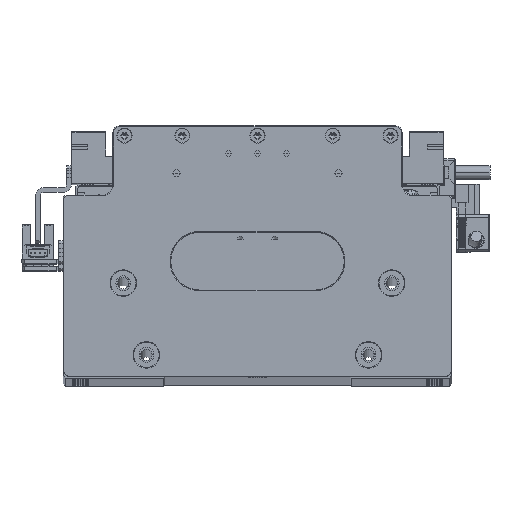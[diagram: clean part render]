
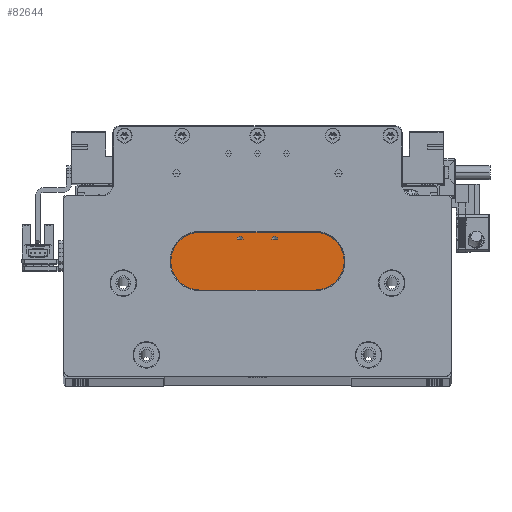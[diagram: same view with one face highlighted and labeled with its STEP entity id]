
A CAD part, top view. The second image highlights one B-rep face of the part: STEP entity #82644.
In plain terms, the highlighted planar face has unit normal (0, 0, 1).
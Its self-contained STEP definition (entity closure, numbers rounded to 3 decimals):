
#1889 = EDGE_CURVE ( 'NONE', #59545, #63715, #81608, .T. ) ;
#2048 = LINE ( 'NONE', #131990, #53679 ) ;
#3581 = DIRECTION ( 'NONE',  ( 0., 0., 1. ) ) ;
#6038 = VERTEX_POINT ( 'NONE', #142651 ) ;
#6567 = DIRECTION ( 'NONE',  ( -1., 0., 0. ) ) ;
#9243 = CARTESIAN_POINT ( 'NONE',  ( 7.5, 61.2, 90. ) ) ;
#12257 = ORIENTED_EDGE ( 'NONE', *, *, #95910, .T. ) ;
#13443 = ORIENTED_EDGE ( 'NONE', *, *, #102136, .F. ) ;
#14115 = LINE ( 'NONE', #98883, #65743 ) ;
#17807 = ORIENTED_EDGE ( 'NONE', *, *, #141955, .F. ) ;
#18757 = DIRECTION ( 'NONE',  ( -1., 0., 0. ) ) ;
#19365 = CARTESIAN_POINT ( 'NONE',  ( -45., 69.2, 90. ) ) ;
#20006 = VECTOR ( 'NONE', #120868, 1000. ) ;
#20329 = DIRECTION ( 'NONE',  ( 1., 0., 0. ) ) ;
#21655 = EDGE_LOOP ( 'NONE', ( #17807, #62153, #86708, #94880, #98536, #105288, #42012, #13443 ) ) ;
#22623 = CARTESIAN_POINT ( 'NONE',  ( 45., 61.2, 90. ) ) ;
#25518 = ORIENTED_EDGE ( 'NONE', *, *, #96567, .T. ) ;
#27035 = CARTESIAN_POINT ( 'NONE',  ( -45., 61.2, 90. ) ) ;
#28509 = EDGE_CURVE ( 'NONE', #135825, #55122, #140601, .T. ) ;
#29423 = VERTEX_POINT ( 'NONE', #60200 ) ;
#29841 = CARTESIAN_POINT ( 'NONE',  ( 45., 29., 90. ) ) ;
#30135 = EDGE_CURVE ( 'NONE', #55122, #35436, #40261, .T. ) ;
#31547 = LINE ( 'NONE', #19365, #86662 ) ;
#31879 = EDGE_CURVE ( 'NONE', #125731, #6038, #120891, .T. ) ;
#32148 = CARTESIAN_POINT ( 'NONE',  ( -7.5, 61.2, 90. ) ) ;
#35436 = VERTEX_POINT ( 'NONE', #98907 ) ;
#36418 = VERTEX_POINT ( 'NONE', #104151 ) ;
#40261 = LINE ( 'NONE', #50395, #69574 ) ;
#42012 = ORIENTED_EDGE ( 'NONE', *, *, #71015, .T. ) ;
#42790 = EDGE_CURVE ( 'NONE', #57495, #29423, #14115, .T. ) ;
#43210 = DIRECTION ( 'NONE',  ( 1., 0., 0. ) ) ;
#45534 = CARTESIAN_POINT ( 'NONE',  ( -33.5, 61.2, 90. ) ) ;
#47378 = CARTESIAN_POINT ( 'NONE',  ( 0., 69.2, 90. ) ) ;
#50395 = CARTESIAN_POINT ( 'NONE',  ( 0., 69., 90. ) ) ;
#51388 = ORIENTED_EDGE ( 'NONE', *, *, #42790, .T. ) ;
#51721 = CARTESIAN_POINT ( 'NONE',  ( -45., 61.2, 90. ) ) ;
#51748 = ORIENTED_EDGE ( 'NONE', *, *, #31879, .T. ) ;
#52273 = VECTOR ( 'NONE', #70106, 1000. ) ;
#53679 = VECTOR ( 'NONE', #77129, 1000. ) ;
#55122 = VERTEX_POINT ( 'NONE', #106177 ) ;
#56944 = VERTEX_POINT ( 'NONE', #29841 ) ;
#57495 = VERTEX_POINT ( 'NONE', #115447 ) ;
#57630 = CIRCLE ( 'NONE', #138482, 1.25 ) ;
#58153 = CARTESIAN_POINT ( 'NONE',  ( 45., 61.2, 90. ) ) ;
#58387 = CARTESIAN_POINT ( 'NONE',  ( -45., 29., 90. ) ) ;
#58448 = VECTOR ( 'NONE', #76726, 1000. ) ;
#59545 = VERTEX_POINT ( 'NONE', #45534 ) ;
#60200 = CARTESIAN_POINT ( 'NONE',  ( -8.75, 61.2, 90. ) ) ;
#61877 = LINE ( 'NONE', #142653, #58448 ) ;
#62153 = ORIENTED_EDGE ( 'NONE', *, *, #132322, .T. ) ;
#63715 = VERTEX_POINT ( 'NONE', #51721 ) ;
#64198 = VECTOR ( 'NONE', #93438, 1000. ) ;
#65743 = VECTOR ( 'NONE', #76792, 1000. ) ;
#66561 = EDGE_CURVE ( 'NONE', #35436, #59545, #61877, .T. ) ;
#66881 = AXIS2_PLACEMENT_3D ( 'NONE', #47378, #3581, #80632 ) ;
#69574 = VECTOR ( 'NONE', #6567, 1000. ) ;
#69645 = CARTESIAN_POINT ( 'NONE',  ( 0., 61.2, 90. ) ) ;
#69687 = DIRECTION ( 'NONE',  ( 0., -1., 0. ) ) ;
#70106 = DIRECTION ( 'NONE',  ( -1., 0., 0. ) ) ;
#71015 = EDGE_CURVE ( 'NONE', #63715, #36418, #31547, .T. ) ;
#71825 = LINE ( 'NONE', #58153, #126977 ) ;
#72344 = CARTESIAN_POINT ( 'NONE',  ( 33.5, 61.2, 90. ) ) ;
#73743 = DIRECTION ( 'NONE',  ( 0., -1., 0. ) ) ;
#76726 = DIRECTION ( 'NONE',  ( 0., -1., 0. ) ) ;
#76792 = DIRECTION ( 'NONE',  ( -1., 0., 0. ) ) ;
#76806 = FACE_BOUND ( 'NONE', #79175, .T. ) ;
#77129 = DIRECTION ( 'NONE',  ( -1., 0., 0. ) ) ;
#79175 = EDGE_LOOP ( 'NONE', ( #25518, #51748 ) ) ;
#80632 = DIRECTION ( 'NONE',  ( 1., 0., 0. ) ) ;
#81608 = LINE ( 'NONE', #69645, #52273 ) ;
#82644 = ADVANCED_FACE ( 'NONE', ( #87097, #106061, #76806 ), #102297, .T. ) ;
#86253 = DIRECTION ( 'NONE',  ( 0., 0., -1. ) ) ;
#86662 = VECTOR ( 'NONE', #73743, 1000. ) ;
#86668 = CARTESIAN_POINT ( 'NONE',  ( 33.5, 69.2, 90. ) ) ;
#86708 = ORIENTED_EDGE ( 'NONE', *, *, #28509, .T. ) ;
#87097 = FACE_OUTER_BOUND ( 'NONE', #21655, .T. ) ;
#93438 = DIRECTION ( 'NONE',  ( -1., 0., 0. ) ) ;
#94880 = ORIENTED_EDGE ( 'NONE', *, *, #30135, .T. ) ;
#95910 = EDGE_CURVE ( 'NONE', #29423, #57495, #57630, .T. ) ;
#96567 = EDGE_CURVE ( 'NONE', #6038, #125731, #116058, .T. ) ;
#98536 = ORIENTED_EDGE ( 'NONE', *, *, #66561, .T. ) ;
#98883 = CARTESIAN_POINT ( 'NONE',  ( -45., 61.2, 90. ) ) ;
#98907 = CARTESIAN_POINT ( 'NONE',  ( -33.5, 69., 90. ) ) ;
#99419 = VECTOR ( 'NONE', #18757, 1000. ) ;
#102136 = EDGE_CURVE ( 'NONE', #56944, #36418, #128661, .T. ) ;
#102297 = PLANE ( 'NONE',  #66881 ) ;
#104151 = CARTESIAN_POINT ( 'NONE',  ( -45., 29., 90. ) ) ;
#105288 = ORIENTED_EDGE ( 'NONE', *, *, #1889, .T. ) ;
#105854 = VERTEX_POINT ( 'NONE', #22623 ) ;
#106061 = FACE_BOUND ( 'NONE', #131922, .T. ) ;
#106177 = CARTESIAN_POINT ( 'NONE',  ( 33.5, 69., 90. ) ) ;
#109240 = DIRECTION ( 'NONE',  ( 0., 0., -1. ) ) ;
#114823 = CARTESIAN_POINT ( 'NONE',  ( 8.75, 61.2, 90. ) ) ;
#115447 = CARTESIAN_POINT ( 'NONE',  ( -6.25, 61.2, 90. ) ) ;
#116058 = CIRCLE ( 'NONE', #133016, 1.25 ) ;
#120868 = DIRECTION ( 'NONE',  ( 0., 1., 0. ) ) ;
#120891 = LINE ( 'NONE', #27035, #64198 ) ;
#125731 = VERTEX_POINT ( 'NONE', #114823 ) ;
#126977 = VECTOR ( 'NONE', #69687, 1000. ) ;
#128661 = LINE ( 'NONE', #58387, #99419 ) ;
#131922 = EDGE_LOOP ( 'NONE', ( #12257, #51388 ) ) ;
#131990 = CARTESIAN_POINT ( 'NONE',  ( 0., 61.2, 90. ) ) ;
#132322 = EDGE_CURVE ( 'NONE', #105854, #135825, #2048, .T. ) ;
#133016 = AXIS2_PLACEMENT_3D ( 'NONE', #9243, #86253, #20329 ) ;
#135825 = VERTEX_POINT ( 'NONE', #72344 ) ;
#138482 = AXIS2_PLACEMENT_3D ( 'NONE', #32148, #109240, #43210 ) ;
#140601 = LINE ( 'NONE', #86668, #20006 ) ;
#141955 = EDGE_CURVE ( 'NONE', #105854, #56944, #71825, .T. ) ;
#142651 = CARTESIAN_POINT ( 'NONE',  ( 6.25, 61.2, 90. ) ) ;
#142653 = CARTESIAN_POINT ( 'NONE',  ( -33.5, 69.2, 90. ) ) ;
